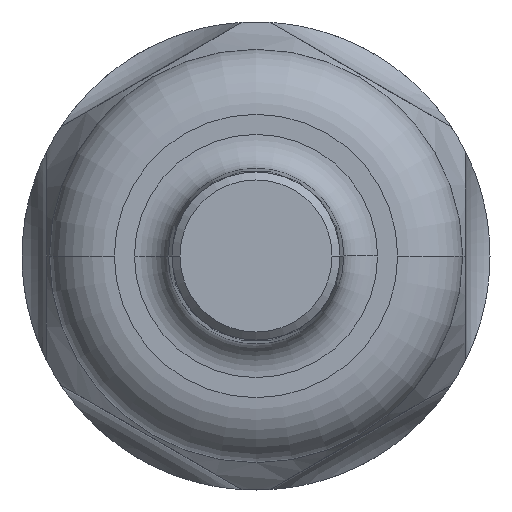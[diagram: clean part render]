
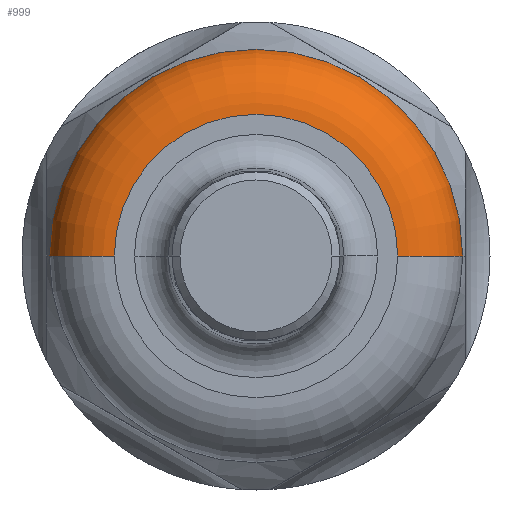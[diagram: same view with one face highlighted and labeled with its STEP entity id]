
A CAD part, left-side view. The second image highlights one B-rep face of the part: STEP entity #999.
In plain terms, the highlighted toroidal (fillet/blend) face has major radius 13.843 mm and minor radius 6.35 mm.
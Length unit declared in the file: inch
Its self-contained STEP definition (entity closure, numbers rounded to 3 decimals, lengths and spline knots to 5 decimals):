
#50=CARTESIAN_POINT('',(0.,0.,0.));
#51=DIRECTION('',(-1.,0.,0.));
#52=DIRECTION('',(0.,-1.,0.));
#53=AXIS2_PLACEMENT_3D('',#50,#51,#52);
#165=CARTESIAN_POINT('',(0.25,0.,0.));
#166=DIRECTION('',(-1.,0.,0.));
#167=DIRECTION('',(0.,-1.,0.));
#168=AXIS2_PLACEMENT_3D('',#165,#166,#167);
#400=CARTESIAN_POINT('',(0.25,-0.545,0.));
#401=DIRECTION('',(0.,0.,1.));
#402=DIRECTION('',(-1.,0.,0.));
#403=AXIS2_PLACEMENT_3D('',#400,#401,#402);
#405=CARTESIAN_POINT('',(0.25,0.545,0.));
#406=DIRECTION('',(0.,0.,-1.));
#407=DIRECTION('',(-1.,0.,0.));
#408=AXIS2_PLACEMENT_3D('',#405,#406,#407);
#570=CARTESIAN_POINT('',(0.,0.545,0.));
#571=CARTESIAN_POINT('',(0.,-0.545,0.));
#572=VERTEX_POINT('',#570);
#573=VERTEX_POINT('',#571);
#574=CARTESIAN_POINT('',(0.25,0.795,0.));
#575=CARTESIAN_POINT('',(0.25,-0.795,0.));
#576=VERTEX_POINT('',#574);
#577=VERTEX_POINT('',#575);
#986=CARTESIAN_POINT('',(0.25,0.,0.));
#987=DIRECTION('',(1.,0.,0.));
#988=DIRECTION('',(0.,-1.,-0.013));
#989=AXIS2_PLACEMENT_3D('',#986,#987,#988);
#990=TOROIDAL_SURFACE('',#989,0.545,0.25);
#991=ORIENTED_EDGE('',*,*,#663,.T.);
#993=ORIENTED_EDGE('',*,*,#992,.T.);
#994=ORIENTED_EDGE('',*,*,#736,.F.);
#996=ORIENTED_EDGE('',*,*,#995,.F.);
#997=EDGE_LOOP('',(#991,#993,#994,#996));
#998=FACE_OUTER_BOUND('',#997,.F.);
#999=ADVANCED_FACE('',(#998),#990,.T.);
#54=CIRCLE('',#53,0.545);
#169=CIRCLE('',#168,0.795);
#404=CIRCLE('',#403,0.25);
#409=CIRCLE('',#408,0.25);
#663=EDGE_CURVE('',#573,#572,#54,.T.);
#736=EDGE_CURVE('',#577,#576,#169,.T.);
#992=EDGE_CURVE('',#572,#576,#409,.T.);
#995=EDGE_CURVE('',#573,#577,#404,.T.);
